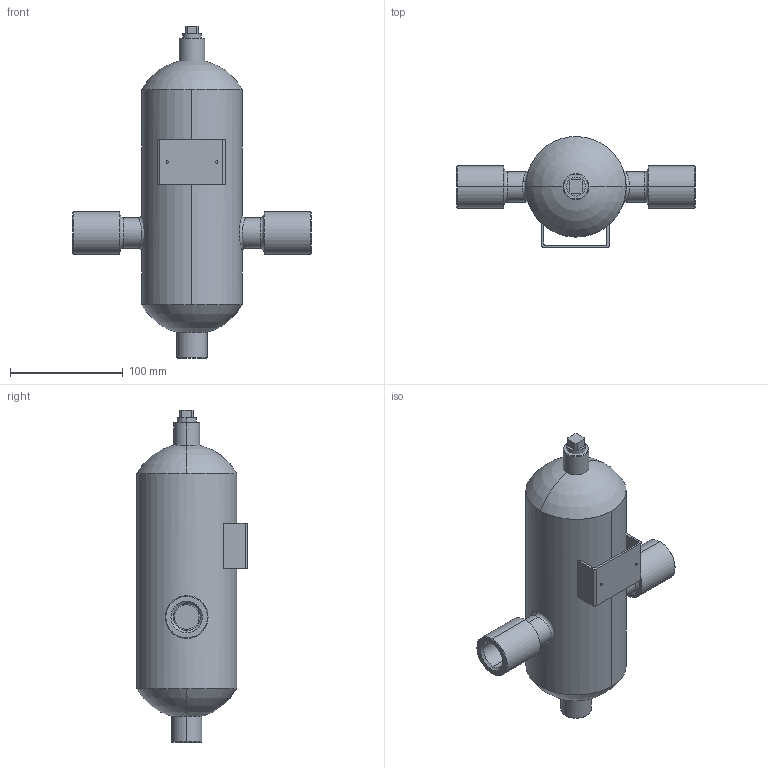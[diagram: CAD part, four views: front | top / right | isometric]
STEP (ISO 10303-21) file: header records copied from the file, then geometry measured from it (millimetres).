
FILE_DESCRIPTION( (''), '2;1');
FILE_NAME ('PC2078.19660.DS-10 20A_9539.stp','2026-03-10T12:49:58',(''),(''),'spGate 20.6.3 (****-****-****-****)','','');
FILE_SCHEMA (('AUTOMOTIVE_DESIGN'));
Length unit declared in the file: millimetre
Products named in the file (3): Assembly; 20A JIS Rc; 10Aプラグ
Assembly tree (2 placements, depth 2):
  Assembly
    20A JIS Rc
    10Aプラグ
Bounding box: 212 x 98.5 x 295 mm (x, y, z)
Volume: 420374.5 mm3; surface area: 207380.1 mm2
Topology: 2 solids, 2 shells, 154 faces, 378 edges, 244 vertices
Faces by surface type: plane 84, cylinder 40, bspline 26, sphere 4
Entity records: 8982 total; most frequent: CARTESIAN_POINT 2360, ORIENTED_EDGE 756, DIRECTION 676, COLOUR_RGB 534, PRESENTATION_STYLE_ASSIGNMENT 534, STYLED_ITEM 534, EDGE_CURVE 378, DRAUGHTING_PRE_DEFINED_CURVE_FONT 378
